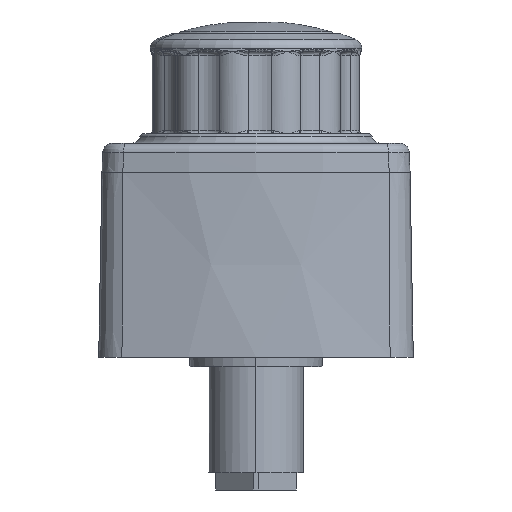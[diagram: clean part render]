
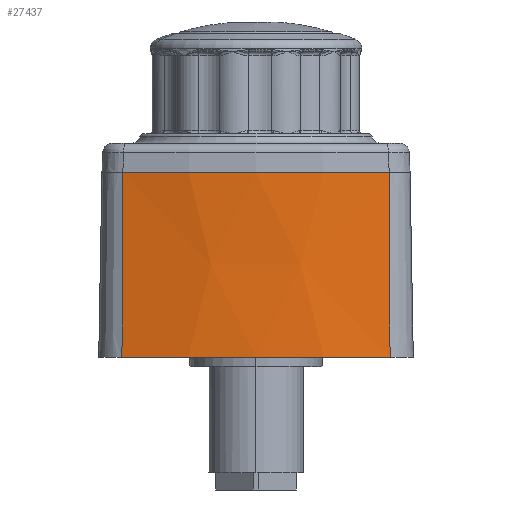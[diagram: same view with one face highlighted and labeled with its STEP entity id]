
A CAD part, left-side view. The second image highlights one B-rep face of the part: STEP entity #27437.
In plain terms, the highlighted conical face has half-angle 1 degrees and reference radius 50 mm.
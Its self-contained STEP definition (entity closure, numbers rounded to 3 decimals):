
#1197 = EDGE_CURVE ( 'NONE', #2065, #30329, #70813, .T. ) ;
#1391 = DIRECTION ( 'NONE',  ( 0., 0., 1. ) ) ;
#2065 = VERTEX_POINT ( 'NONE', #43808 ) ;
#2634 = DIRECTION ( 'NONE',  ( 0., 0., 1. ) ) ;
#8638 = AXIS2_PLACEMENT_3D ( 'NONE', #69154, #23587, #2634 ) ;
#14052 = EDGE_LOOP ( 'NONE', ( #33471, #58855, #46660, #37912 ) ) ;
#14356 = DIRECTION ( 'NONE',  ( -0.017, -1., 0.005 ) ) ;
#23587 = DIRECTION ( 'NONE',  ( 0., 1., 0. ) ) ;
#25417 = LINE ( 'NONE', #35055, #80791 ) ;
#27437 = ADVANCED_FACE ( 'NONE', ( #55679 ), #42075, .T. ) ;
#28780 = DIRECTION ( 'NONE',  ( 0., 1., 0. ) ) ;
#30329 = VERTEX_POINT ( 'NONE', #32998 ) ;
#31267 = EDGE_CURVE ( 'NONE', #84083, #30329, #43760, .T. ) ;
#32998 = CARTESIAN_POINT ( 'NONE',  ( -45.371, 0., 13.922 ) ) ;
#33471 = ORIENTED_EDGE ( 'NONE', *, *, #1197, .T. ) ;
#34891 = CARTESIAN_POINT ( 'NONE',  ( 3., 19.2, 0. ) ) ;
#35055 = CARTESIAN_POINT ( 'NONE',  ( -45.049, 19.2, -13.83 ) ) ;
#35461 = EDGE_CURVE ( 'NONE', #67618, #2065, #25417, .T. ) ;
#37362 = CARTESIAN_POINT ( 'NONE',  ( -45.049, 19.2, -13.83 ) ) ;
#37437 = CIRCLE ( 'NONE', #77745, 50. ) ;
#37912 = ORIENTED_EDGE ( 'NONE', *, *, #35461, .T. ) ;
#40778 = DIRECTION ( 'NONE',  ( 0., -1., 0. ) ) ;
#42075 = CONICAL_SURFACE ( 'NONE', #81824, 50., 0.017 ) ;
#43760 = LINE ( 'NONE', #54320, #77233 ) ;
#43808 = CARTESIAN_POINT ( 'NONE',  ( -45.371, 0., -13.922 ) ) ;
#44666 = EDGE_CURVE ( 'NONE', #67618, #84083, #37437, .T. ) ;
#46660 = ORIENTED_EDGE ( 'NONE', *, *, #44666, .F. ) ;
#47483 = DIRECTION ( 'NONE',  ( 0., 0., 1. ) ) ;
#54320 = CARTESIAN_POINT ( 'NONE',  ( -45.049, 19.2, 13.83 ) ) ;
#55679 = FACE_OUTER_BOUND ( 'NONE', #14052, .T. ) ;
#58855 = ORIENTED_EDGE ( 'NONE', *, *, #31267, .F. ) ;
#65673 = CARTESIAN_POINT ( 'NONE',  ( -45.049, 19.2, 13.83 ) ) ;
#67618 = VERTEX_POINT ( 'NONE', #37362 ) ;
#68663 = DIRECTION ( 'NONE',  ( -0.017, -1., -0.005 ) ) ;
#69154 = CARTESIAN_POINT ( 'NONE',  ( 3., 0., 0. ) ) ;
#70813 = CIRCLE ( 'NONE', #8638, 50.335 ) ;
#73549 = CARTESIAN_POINT ( 'NONE',  ( 3., 19.2, 0. ) ) ;
#77233 = VECTOR ( 'NONE', #14356, 1000. ) ;
#77745 = AXIS2_PLACEMENT_3D ( 'NONE', #34891, #28780, #1391 ) ;
#80791 = VECTOR ( 'NONE', #68663, 1000. ) ;
#81824 = AXIS2_PLACEMENT_3D ( 'NONE', #73549, #40778, #47483 ) ;
#84083 = VERTEX_POINT ( 'NONE', #65673 ) ;
